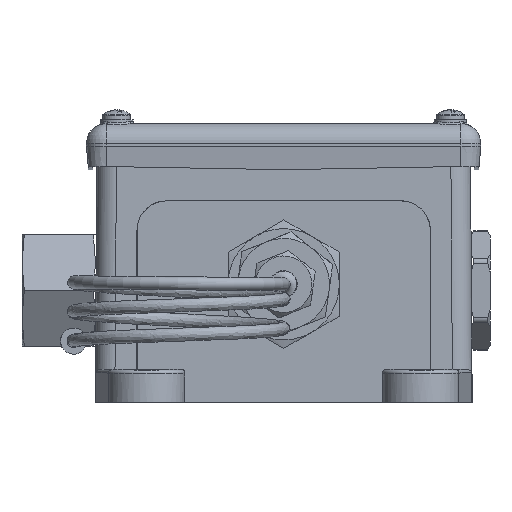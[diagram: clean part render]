
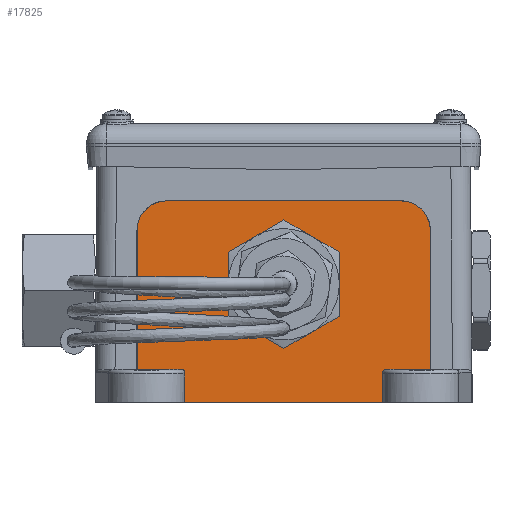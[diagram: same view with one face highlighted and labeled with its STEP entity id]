
A CAD part, front view. The second image highlights one B-rep face of the part: STEP entity #17825.
In plain terms, the highlighted planar face has unit normal (0, -1, 0).
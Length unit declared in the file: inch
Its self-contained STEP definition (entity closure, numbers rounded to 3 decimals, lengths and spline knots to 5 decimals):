
#203 = LINE ( 'NONE', #3172, #12103 ) ;
#274 = ORIENTED_EDGE ( 'NONE', *, *, #19758, .T. ) ;
#290 = AXIS2_PLACEMENT_3D ( 'NONE', #5218, #10097, #16333 ) ;
#443 = EDGE_CURVE ( 'NONE', #11824, #2216, #19230, .T. ) ;
#543 = EDGE_CURVE ( 'NONE', #4412, #8968, #18617, .T. ) ;
#943 = CARTESIAN_POINT ( 'NONE',  ( -1.4, -1.48, 1.64 ) ) ;
#950 = FACE_OUTER_BOUND ( 'NONE', #7745, .T. ) ;
#960 = ORIENTED_EDGE ( 'NONE', *, *, #6172, .T. ) ;
#1168 = ORIENTED_EDGE ( 'NONE', *, *, #19878, .T. ) ;
#1214 = CARTESIAN_POINT ( 'NONE',  ( 1.119, -1.48, 1.64 ) ) ;
#1280 = VECTOR ( 'NONE', #11232, 39.37008 ) ;
#1484 = DIRECTION ( 'NONE',  ( 0., 0., -1. ) ) ;
#1682 = CARTESIAN_POINT ( 'NONE',  ( 0.94497, -1.48, 0.28125 ) ) ;
#1700 = CARTESIAN_POINT ( 'NONE',  ( -0.94497, -1.48, 0.28125 ) ) ;
#2216 = VERTEX_POINT ( 'NONE', #1700 ) ;
#2466 = CARTESIAN_POINT ( 'NONE',  ( 0., -1.48, 1.125 ) ) ;
#2718 = CARTESIAN_POINT ( 'NONE',  ( -0.94497, -1.48, 0.29956 ) ) ;
#3172 = CARTESIAN_POINT ( 'NONE',  ( 1.4, -1.48, 0. ) ) ;
#3209 = VECTOR ( 'NONE', #1484, 39.37008 ) ;
#3973 = ORIENTED_EDGE ( 'NONE', *, *, #14196, .F. ) ;
#4004 = VERTEX_POINT ( 'NONE', #11644 ) ;
#4044 = CARTESIAN_POINT ( 'NONE',  ( -0.94497, -1.48, 1.64 ) ) ;
#4368 = EDGE_CURVE ( 'NONE', #4412, #4004, #6301, .T. ) ;
#4412 = VERTEX_POINT ( 'NONE', #12533 ) ;
#4417 = VERTEX_POINT ( 'NONE', #10616 ) ;
#4479 = ORIENTED_EDGE ( 'NONE', *, *, #8758, .T. ) ;
#4633 = CARTESIAN_POINT ( 'NONE',  ( 0.94497, -1.48, 1.64 ) ) ;
#4747 = CARTESIAN_POINT ( 'NONE',  ( -1.4, -1.48, 0.3125 ) ) ;
#4980 = VERTEX_POINT ( 'NONE', #6944 ) ;
#5088 =( BOUNDED_CURVE ( )  B_SPLINE_CURVE ( 3, ( #5657, #16260, #2718, #8495 ),
 .UNSPECIFIED., .F., .F. ) 
 B_SPLINE_CURVE_WITH_KNOTS ( ( 4, 4 ),
 ( 3.14159, 4.71239 ),
 .UNSPECIFIED. ) 
 CURVE ( )  GEOMETRIC_REPRESENTATION_ITEM ( )  RATIONAL_B_SPLINE_CURVE ( ( 1., 0.805, 0.805, 1. ) ) 
 REPRESENTATION_ITEM ( '' )  );
#5189 = CARTESIAN_POINT ( 'NONE',  ( -1.119, -1.48, 1.921 ) ) ;
#5218 = CARTESIAN_POINT ( 'NONE',  ( 1.119, -1.48, 1.64 ) ) ;
#5321 = DIRECTION ( 'NONE',  ( -1., 0., 0. ) ) ;
#5324 = ORIENTED_EDGE ( 'NONE', *, *, #19155, .T. ) ;
#5517 = DIRECTION ( 'NONE',  ( 0., 0., 1. ) ) ;
#5657 = CARTESIAN_POINT ( 'NONE',  ( -0.97622, -1.48, 0.3125 ) ) ;
#5814 = ORIENTED_EDGE ( 'NONE', *, *, #4368, .T. ) ;
#5830 = CARTESIAN_POINT ( 'NONE',  ( 1.119, -1.48, 0.3125 ) ) ;
#5935 = ORIENTED_EDGE ( 'NONE', *, *, #543, .F. ) ;
#6172 = EDGE_CURVE ( 'NONE', #4004, #18571, #10851, .T. ) ;
#6301 = LINE ( 'NONE', #14281, #8511 ) ;
#6480 = VERTEX_POINT ( 'NONE', #16358 ) ;
#6730 = VECTOR ( 'NONE', #5321, 39.37008 ) ;
#6944 = CARTESIAN_POINT ( 'NONE',  ( -0.97622, -1.48, 0.3125 ) ) ;
#7256 = ORIENTED_EDGE ( 'NONE', *, *, #443, .F. ) ;
#7552 = DIRECTION ( 'NONE',  ( 0., 0., -1. ) ) ;
#7745 = EDGE_LOOP ( 'NONE', ( #5935, #5814, #960, #10286, #274, #9163, #5324, #14092, #7256, #1168, #3973, #16798 ) ) ;
#7839 = AXIS2_PLACEMENT_3D ( 'NONE', #8657, #10295, #7552 ) ;
#7869 = CARTESIAN_POINT ( 'NONE',  ( 0.97622, -1.48, 0.3125 ) ) ;
#8011 = DIRECTION ( 'NONE',  ( -1., 0., 0. ) ) ;
#8458 = VECTOR ( 'NONE', #8862, 39.37008 ) ;
#8495 = CARTESIAN_POINT ( 'NONE',  ( -0.94497, -1.48, 0.28125 ) ) ;
#8511 = VECTOR ( 'NONE', #17404, 39.37008 ) ;
#8655 = EDGE_CURVE ( 'NONE', #6480, #8968, #8711, .T. ) ;
#8657 = CARTESIAN_POINT ( 'NONE',  ( -1.119, -1.48, 1.64 ) ) ;
#8658 = DIRECTION ( 'NONE',  ( 0., 1., 0. ) ) ;
#8711 =( BOUNDED_CURVE ( )  B_SPLINE_CURVE ( 3, ( #1682, #9567, #12469, #7869 ),
 .UNSPECIFIED., .F., .F. ) 
 B_SPLINE_CURVE_WITH_KNOTS ( ( 4, 4 ),
 ( 4.71239, 6.28319 ),
 .UNSPECIFIED. ) 
 CURVE ( )  GEOMETRIC_REPRESENTATION_ITEM ( )  RATIONAL_B_SPLINE_CURVE ( ( 1., 0.805, 0.805, 1. ) ) 
 REPRESENTATION_ITEM ( '' )  );
#8724 = DIRECTION ( 'NONE',  ( 0., -1., 0. ) ) ;
#8751 = VERTEX_POINT ( 'NONE', #943 ) ;
#8758 = EDGE_CURVE ( 'NONE', #4417, #4417, #9580, .T. ) ;
#8862 = DIRECTION ( 'NONE',  ( 1., 0., 0. ) ) ;
#8968 = VERTEX_POINT ( 'NONE', #9352 ) ;
#8972 = VECTOR ( 'NONE', #8011, 39.37008 ) ;
#9163 = ORIENTED_EDGE ( 'NONE', *, *, #17633, .T. ) ;
#9351 = DIRECTION ( 'NONE',  ( 1., 0., 0. ) ) ;
#9352 = CARTESIAN_POINT ( 'NONE',  ( 0.97622, -1.48, 0.3125 ) ) ;
#9421 = CARTESIAN_POINT ( 'NONE',  ( 1.119, -1.48, 0.3125 ) ) ;
#9567 = CARTESIAN_POINT ( 'NONE',  ( 0.94497, -1.48, 0.29956 ) ) ;
#9580 = CIRCLE ( 'NONE', #19039, 0.51 ) ;
#9977 = CARTESIAN_POINT ( 'NONE',  ( 0.94497, -1.48, 0. ) ) ;
#10097 = DIRECTION ( 'NONE',  ( 0., 1., 0. ) ) ;
#10286 = ORIENTED_EDGE ( 'NONE', *, *, #12047, .T. ) ;
#10292 = VECTOR ( 'NONE', #16487, 39.37008 ) ;
#10295 = DIRECTION ( 'NONE',  ( 0., -1., 0. ) ) ;
#10616 = CARTESIAN_POINT ( 'NONE',  ( 0., -1.48, 1.635 ) ) ;
#10827 = LINE ( 'NONE', #4633, #3209 ) ;
#10851 = CIRCLE ( 'NONE', #15732, 0.281 ) ;
#11232 = DIRECTION ( 'NONE',  ( 0., 0., -1. ) ) ;
#11620 = VERTEX_POINT ( 'NONE', #5189 ) ;
#11640 = FACE_BOUND ( 'NONE', #19105, .T. ) ;
#11644 = CARTESIAN_POINT ( 'NONE',  ( 1.4, -1.48, 1.64 ) ) ;
#11824 = VERTEX_POINT ( 'NONE', #16059 ) ;
#12047 = EDGE_CURVE ( 'NONE', #18571, #11620, #17745, .T. ) ;
#12103 = VECTOR ( 'NONE', #9351, 39.37008 ) ;
#12469 = CARTESIAN_POINT ( 'NONE',  ( 0.95791, -1.48, 0.3125 ) ) ;
#12533 = CARTESIAN_POINT ( 'NONE',  ( 1.4, -1.48, 0.3125 ) ) ;
#12883 = CARTESIAN_POINT ( 'NONE',  ( -1.4, -1.48, 0. ) ) ;
#12971 = VERTEX_POINT ( 'NONE', #9977 ) ;
#14092 = ORIENTED_EDGE ( 'NONE', *, *, #16047, .T. ) ;
#14196 = EDGE_CURVE ( 'NONE', #6480, #12971, #10827, .T. ) ;
#14281 = CARTESIAN_POINT ( 'NONE',  ( 1.4, -1.48, 0. ) ) ;
#14480 = VERTEX_POINT ( 'NONE', #4747 ) ;
#15046 = CARTESIAN_POINT ( 'NONE',  ( 1.119, -1.48, 1.921 ) ) ;
#15732 = AXIS2_PLACEMENT_3D ( 'NONE', #1214, #8724, #19945 ) ;
#16047 = EDGE_CURVE ( 'NONE', #4980, #2216, #5088, .T. ) ;
#16059 = CARTESIAN_POINT ( 'NONE',  ( -0.94497, -1.48, 0. ) ) ;
#16125 = PLANE ( 'NONE',  #290 ) ;
#16260 = CARTESIAN_POINT ( 'NONE',  ( -0.95791, -1.48, 0.3125 ) ) ;
#16333 = DIRECTION ( 'NONE',  ( 0., 0., 1. ) ) ;
#16358 = CARTESIAN_POINT ( 'NONE',  ( 0.94497, -1.48, 0.28125 ) ) ;
#16487 = DIRECTION ( 'NONE',  ( 0., 0., 1. ) ) ;
#16655 = CIRCLE ( 'NONE', #7839, 0.281 ) ;
#16798 = ORIENTED_EDGE ( 'NONE', *, *, #8655, .T. ) ;
#17404 = DIRECTION ( 'NONE',  ( 0., 0., 1. ) ) ;
#17443 = LINE ( 'NONE', #12883, #1280 ) ;
#17633 = EDGE_CURVE ( 'NONE', #8751, #14480, #17443, .T. ) ;
#17745 = LINE ( 'NONE', #17950, #6730 ) ;
#17825 = ADVANCED_FACE ( 'NONE', ( #11640, #950 ), #16125, .F. ) ;
#17950 = CARTESIAN_POINT ( 'NONE',  ( 1.119, -1.48, 1.921 ) ) ;
#18045 = LINE ( 'NONE', #5830, #8458 ) ;
#18571 = VERTEX_POINT ( 'NONE', #15046 ) ;
#18617 = LINE ( 'NONE', #9421, #8972 ) ;
#19039 = AXIS2_PLACEMENT_3D ( 'NONE', #2466, #8658, #5517 ) ;
#19105 = EDGE_LOOP ( 'NONE', ( #4479 ) ) ;
#19155 = EDGE_CURVE ( 'NONE', #14480, #4980, #18045, .T. ) ;
#19230 = LINE ( 'NONE', #4044, #10292 ) ;
#19758 = EDGE_CURVE ( 'NONE', #11620, #8751, #16655, .T. ) ;
#19878 = EDGE_CURVE ( 'NONE', #11824, #12971, #203, .T. ) ;
#19945 = DIRECTION ( 'NONE',  ( 0., 0., 1. ) ) ;
